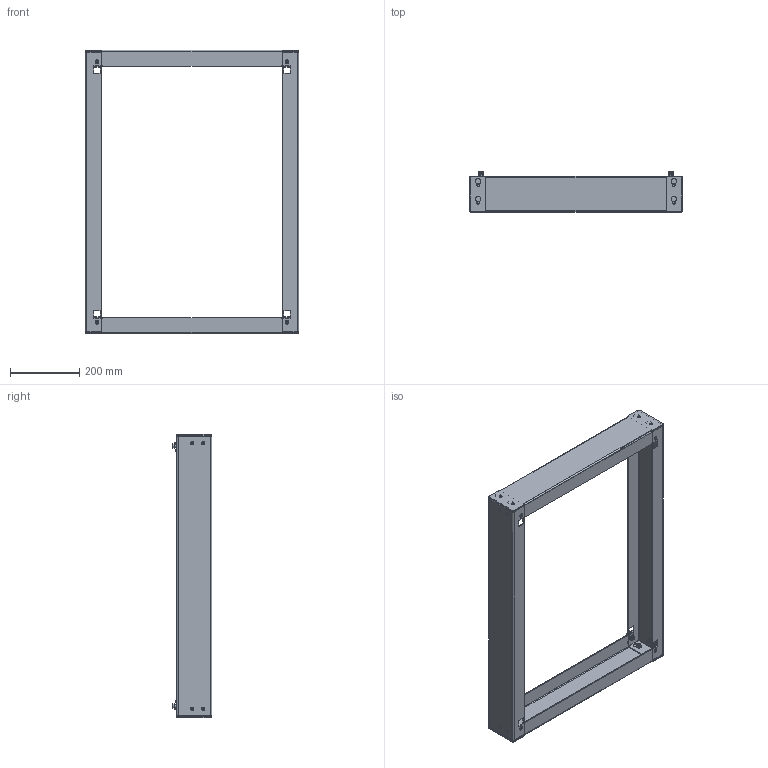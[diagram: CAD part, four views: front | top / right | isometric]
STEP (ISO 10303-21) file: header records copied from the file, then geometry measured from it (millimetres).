
FILE_DESCRIPTION((''),'2;1');
FILE_NAME('MODEL-178_ASM','2021-09-08T09:08:52',('mikek'),('SAGINAW CONTROL & ENGINEERING'),'CREO PARAMETRIC BY PTC INC, 2017260','CREO PARAMETRIC BY PTC INC, 2017260','');
FILE_SCHEMA(('AUTOMOTIVE_DESIGN { 1 0 10303 214 1 1 1 1 }'));
Length unit declared in the file: inch
Products named in the file (11): MODEL-178-REAR-CHNL; MODEL-178-L-SD-CHNL; MODEL-178-R-SD-CHNL; MODEL-178-FRNT-CHNL; 100041; 116015; 100882; 107043; 102496; 108621; MODEL-178_ASM
Assembly tree (37 placements, depth 2):
  MODEL-178_ASM
    MODEL-178-REAR-CHNL
    MODEL-178-L-SD-CHNL
    MODEL-178-R-SD-CHNL
    MODEL-178-FRNT-CHNL
    100041  x8
    116015  x8
    100882  x8
    107043  x4
    102496  x4
    108621
Bounding box: 615.95 x 114.55 x 819.35 mm (x, y, z)
Volume: 1405796.7 mm3; surface area: 1096048.2 mm2
Topology: 36 solids, 36 shells, 2896 faces, 7672 edges, 4856 vertices
Faces by surface type: bspline 1240, plane 900, cylinder 468, cone 136, torus 120, sphere 32
Entity records: 40258 total; most frequent: CARTESIAN_POINT 16518, ORIENTED_EDGE 4042, DIRECTION 3255, EDGE_CURVE 2021, VERTEX_POINT 1279, AXIS2_PLACEMENT_3D 1225, PRESENTATION_STYLE_ASSIGNMENT 946, STYLED_ITEM 946
